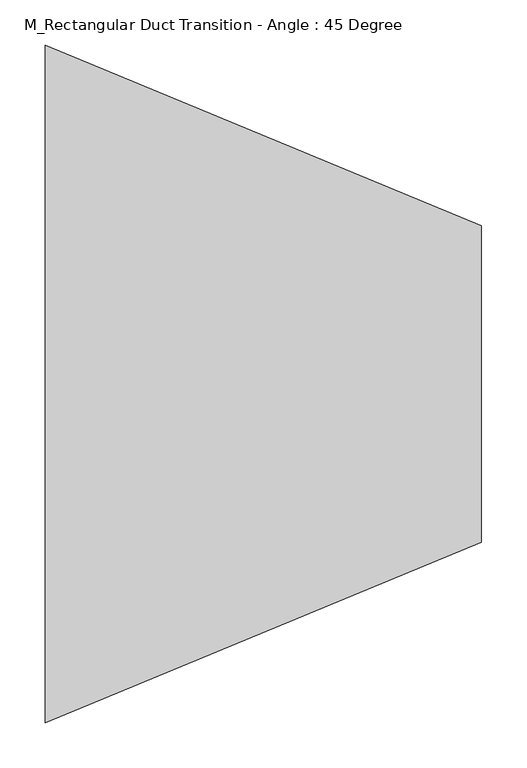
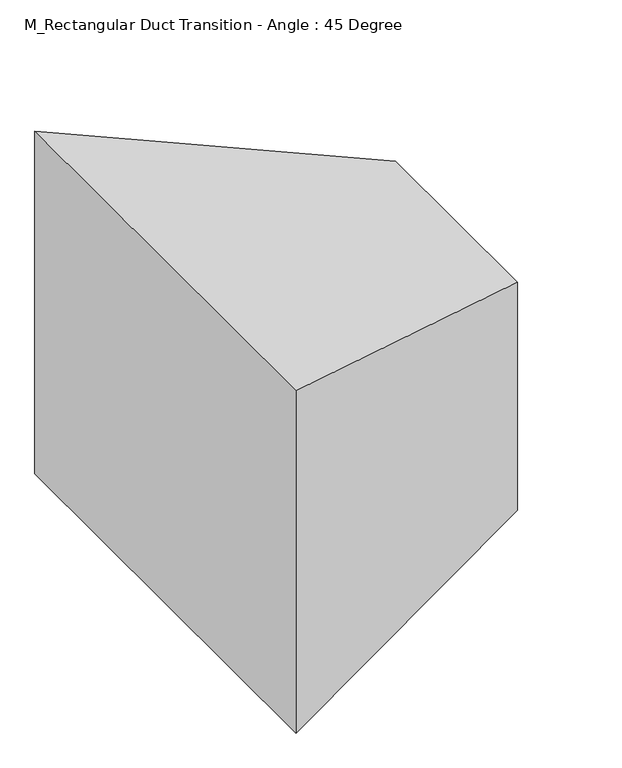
"""IFC4 building model written with IfcOpenShell, lengths in millimetres: duct fitting geometry, M_Rectangular Duct Transition - Angle : 45 Degree."""

import ifcopenshell
import ifcopenshell.guid

model = None  # the IFC model being written
_history = None  # IfcOwnerHistory: only IFC2X3 demands one
_inside = {}  # id of a spatial element -> (the spatial element, [elements in it])
_under = {}  # id of a project, library or spatial element -> (it, [spatial elements below it])
_declared = {}  # id of a project -> (the project, [libraries it declares])
_typed = {}  # id of a type object -> (the type object, [elements of that type])
_made_of = {}  # id of a material, layer set ... -> (it, [elements and type objects made of it])


def new_model(schema):
    """Start an empty IFC model of exactly this schema.

    Asked for "IFC4X3", IfcOpenShell would pick the latest addendum, in which some entities
    have other attributes; the version numbers below select the first issue.
    IFC2X3 requires an IfcOwnerHistory on every rooted entity: one is made here for all.
    """
    global model, _history
    if schema == "IFC4X3":
        model = ifcopenshell.file(schema_version=(4, 3, 0, 0))
    else:
        model = ifcopenshell.file(schema=schema)
    _inside.clear()
    _under.clear()
    _declared.clear()
    _typed.clear()
    _made_of.clear()
    _history = None
    if model.schema == "IFC2X3":
        org = make("IfcOrganization", Name="unknown")
        user = make(
            "IfcPersonAndOrganization",
            ThePerson=make("IfcPerson", FamilyName="unknown"),
            TheOrganization=org,
        )
        app = make(
            "IfcApplication",
            ApplicationDeveloper=org,
            Version="unknown",
            ApplicationFullName="unknown",
            ApplicationIdentifier="unknown",
        )
        _history = make(
            "IfcOwnerHistory",
            OwningUser=user,
            OwningApplication=app,
            ChangeAction="ADDED",
            CreationDate=0,
        )
    return model


def make(cls, **values):
    """One entity of the class cls with the attributes given. An attribute that is None is left unset."""
    return model.create_entity(
        cls, **{name: value for name, value in values.items() if value is not None}
    )


def rooted(cls, **values):
    """An entity with a GlobalId (a new one), such as an element, a storey or a relation."""
    return make(cls, GlobalId=ifcopenshell.guid.new(), OwnerHistory=_history, **values)


def si_unit(unit_type, name, prefix=None):
    """IfcSIUnit, for example si_unit("LENGTHUNIT", "METRE", prefix="MILLI")."""
    return make("IfcSIUnit", UnitType=unit_type, Prefix=prefix, Name=name)


def assignment(units):
    """IfcUnitAssignment: the units of a project."""
    return None if units is None else make("IfcUnitAssignment", Units=units)


def point(xyz):
    """IfcCartesianPoint."""
    return None if xyz is None else make("IfcCartesianPoint", Coordinates=xyz)


def direction(xyz):
    """IfcDirection."""
    return None if xyz is None else make("IfcDirection", DirectionRatios=xyz)


def frame(location, z_axis=None, x_axis=None):
    """IfcAxis2Placement3D, a coordinate frame: its origin and axes. An axis left out is left unset."""
    return make(
        "IfcAxis2Placement3D",
        Location=point(location),
        Axis=direction(z_axis),
        RefDirection=direction(x_axis),
    )


def origin():
    """The frame at (0, 0, 0) with its axes left unset."""
    return frame((0.0, 0.0, 0.0))


def place(relative_to, where):
    """IfcLocalPlacement: puts the frame where relative to a parent placement (None: the world)."""
    return make(
        "IfcLocalPlacement", PlacementRelTo=relative_to, RelativePlacement=where
    )


def context(
    kind, dimensions, precision=None, world=None, true_north=None, identifier=None
):
    """IfcGeometricRepresentationContext, for example the 3D "Model" context."""
    return make(
        "IfcGeometricRepresentationContext",
        ContextIdentifier=identifier,
        ContextType=kind,
        CoordinateSpaceDimension=dimensions,
        Precision=precision,
        WorldCoordinateSystem=world,
        TrueNorth=true_north,
    )


def project(units=None, contexts=None):
    """IfcProject with its units and contexts."""
    return rooted(
        "IfcProject",
        Name="project",
        RepresentationContexts=contexts,
        UnitsInContext=assignment(units),
    )


def spatial(cls, under=None, at=None, **own):
    """A site, building, storey or space (cls), placed at a placement, below another one or the project."""
    s = rooted(cls, ObjectPlacement=at, **own)
    if under is not None:
        _under.setdefault(under.id(), (under, []))[1].append(s)
    return s


def faces_of(points, faces, orient=None, outer=None):
    """IfcFace entities. A face is a list of loops; a loop is a list of indices into points, from 0.

    orient and outer hold one flag for each loop. By default every Orientation is true, the
    first loop of a face is its IfcFaceOuterBound and the others are IfcFaceBound.
    """
    made = []
    for i, loops in enumerate(faces):
        bounds = []
        for j, loop in enumerate(loops):
            is_outer = j == 0 if outer is None else outer[i][j]
            bounds.append(
                make(
                    "IfcFaceOuterBound" if is_outer else "IfcFaceBound",
                    Bound=make("IfcPolyLoop", Polygon=[points[k] for k in loop]),
                    Orientation=True if orient is None else orient[i][j],
                )
            )
        made.append(make("IfcFace", Bounds=bounds))
    return made


def faceted_brep(points, faces, orient=None, outer=None, voids=None):
    """IfcFacetedBrep: a solid bounded by flat faces; with voids (closed shells), ...WithVoids."""
    shared = [point(p) for p in points]
    hull = make("IfcClosedShell", CfsFaces=faces_of(shared, faces, orient, outer))
    if voids is None:
        return make("IfcFacetedBrep", Outer=hull)
    return make(
        "IfcFacetedBrepWithVoids",
        Outer=hull,
        Voids=[
            make(cls, CfsFaces=faces_of(shared, fs, o, b)) for cls, fs, o, b in voids
        ],
    )


def shape(context_of_items, identifier, shape_type, items):
    """IfcShapeRepresentation: the items that make up one representation, for example the "Body"."""
    return make(
        "IfcShapeRepresentation",
        ContextOfItems=context_of_items,
        RepresentationIdentifier=identifier,
        RepresentationType=shape_type,
        Items=items,
    )


def source(mapping_origin, context_of_items, identifier, shape_type, items):
    """IfcRepresentationMap: a shape defined once, which mapped items show again and again."""
    return make(
        "IfcRepresentationMap",
        MappingOrigin=mapping_origin,
        MappedRepresentation=shape(context_of_items, identifier, shape_type, items),
    )


def transform(
    local_origin,
    x_axis=None,
    y_axis=None,
    z_axis=None,
    scale=None,
    scale2=None,
    scale3=None,
    uniform=True,
):
    """IfcCartesianTransformationOperator3D, or its non-uniform kind. x_axis, y_axis, z_axis: its Axis1, 2, 3."""
    if uniform:
        return make(
            "IfcCartesianTransformationOperator3D",
            Axis1=direction(x_axis),
            Axis2=direction(y_axis),
            LocalOrigin=point(local_origin),
            Scale=scale,
            Axis3=direction(z_axis),
        )
    return make(
        "IfcCartesianTransformationOperator3DnonUniform",
        Axis1=direction(x_axis),
        Axis2=direction(y_axis),
        LocalOrigin=point(local_origin),
        Scale=scale,
        Axis3=direction(z_axis),
        Scale2=scale2,
        Scale3=scale3,
    )


def mapped(mapping_source, mapping_target):
    """IfcMappedItem: shows the shape of a source again, moved by a transform."""
    return make(
        "IfcMappedItem", MappingSource=mapping_source, MappingTarget=mapping_target
    )


def made_of(thing, what):
    """Note that an element or type object is made of a material, layer set ...; save() writes the relation."""
    if what is not None:
        _made_of.setdefault(what.id(), (what, []))[1].append(thing)
    return thing


def element(
    cls,
    number,
    at=None,
    inside=None,
    cuts=None,
    type_object=None,
    material=None,
    context=None,
    identifier="Body",
    shape_type=None,
    held_by="IfcProductDefinitionShape",
    body=None,
    shapes=None,
    **own,
):
    """One element of the class cls, such as IfcWall. Its Tag is "e" and its number.

    at: its placement. inside: the storey or other place that contains it. cuts: it is an
    opening in that element (IfcRelVoidsElement). A single representation is given by context,
    identifier, shape_type and body (its items); several are given by shapes. held_by: the class
    of the entity that holds the representations. save() writes the other relations.
    """
    e = rooted(cls, Tag="e%d" % number, ObjectPlacement=at, **own)
    if body is not None:
        shapes = [shape(context, identifier, shape_type, body)]
    if shapes is not None:
        e.Representation = make(held_by, Representations=shapes)
    if inside is not None:
        _inside.setdefault(inside.id(), (inside, []))[1].append(e)
    if cuts is not None:
        rooted(
            "IfcRelVoidsElement", RelatingBuildingElement=cuts, RelatedOpeningElement=e
        )
    if type_object is not None:
        _typed.setdefault(type_object.id(), (type_object, []))[1].append(e)
    return made_of(e, material)


def aggregate(whole, parts):
    """IfcRelAggregates: a whole, such as a stair, and the parts it consists of."""
    return rooted("IfcRelAggregates", RelatingObject=whole, RelatedObjects=parts)


def save(model, path):
    """Write the relations noted so far, then the file.

    IfcRelAggregates (storeys below a building ...), IfcRelContainedInSpatialStructure (elements
    in a storey), IfcRelDefinesByType, IfcRelAssociatesMaterial and IfcRelDeclares: one each for
    every whole, place, type object, material and project.
    """
    for whole, parts in _under.values():
        aggregate(whole, parts)
    for where, things in _inside.values():
        rooted(
            "IfcRelContainedInSpatialStructure",
            RelatedElements=things,
            RelatingStructure=where,
        )
    for kind, things in _typed.values():
        rooted("IfcRelDefinesByType", RelatedObjects=things, RelatingType=kind)
    for what, things in _made_of.values():
        rooted("IfcRelAssociatesMaterial", RelatedObjects=things, RelatingMaterial=what)
    for by, libraries in _declared.values():
        rooted("IfcRelDeclares", RelatingContext=by, RelatedDefinitions=libraries)
    model.write(path)


def m_rectangular_duct_transition_angle_45_degree_38c62c02(model_context):
    return source(origin(), model_context, "Body", "Brep", [
        faceted_brep([(482.8427125, -175.0, 200.0), (482.8427125, -175.0, -200.0), (482.8427125, 175.0, -200.0), (482.8427125, 175.0, 200.0), (0.0, -375.0, 300.0), (0.0, 375.0, 300.0), (0.0, 375.0, -300.0), (0.0, -375.0, -300.0)], [[[0, 1, 2, 3]], [[4, 5, 6, 7]], [[4, 7, 1, 0]], [[7, 6, 2, 1]], [[6, 5, 3, 2]], [[5, 4, 0, 3]]]),
        faceted_brep([(482.8427125, -175.0, 200.0), (482.8427125, -175.0, -200.0), (482.8427125, 175.0, -200.0), (482.8427125, 175.0, 200.0), (0.0, -375.0, 300.0), (0.0, 375.0, 300.0), (0.0, 375.0, -300.0), (0.0, -375.0, -300.0)], [[[0, 1, 2, 3]], [[4, 5, 6, 7]], [[4, 7, 1, 0]], [[7, 6, 2, 1]], [[6, 5, 3, 2]], [[5, 4, 0, 3]]]),
        faceted_brep([(482.8427125, -175.0, 200.0), (482.8427125, -175.0, -200.0), (482.8427125, 175.0, -200.0), (482.8427125, 175.0, 200.0), (0.0, -375.0, 300.0), (0.0, 375.0, 300.0), (0.0, 375.0, -300.0), (0.0, -375.0, -300.0)], [[[0, 1, 2, 3]], [[4, 5, 6, 7]], [[4, 7, 1, 0]], [[7, 6, 2, 1]], [[6, 5, 3, 2]], [[5, 4, 0, 3]]]),
    ])


if __name__ == "__main__":
    model = new_model("IFC4")
    model_context = context("Model", 3, world=origin())
    ifc_project = project(units=[si_unit("LENGTHUNIT", "METRE", prefix="MILLI")], contexts=[model_context])
    site = spatial("IfcSite", under=ifc_project)
    building = spatial("IfcBuilding", under=site)
    placement = place(None, origin())
    m_rectangular_duct_transition_angle_45_degree_shape = m_rectangular_duct_transition_angle_45_degree_38c62c02(model_context)
    element("IfcDuctFitting", 1, ObjectType="M_Rectangular Duct Transition - Angle : 45 Degree", at=placement, inside=building, context=model_context, shape_type="MappedRepresentation", body=[
        mapped(m_rectangular_duct_transition_angle_45_degree_shape, transform((0.0, 0.0, 0.0), x_axis=(1.0, 0.0, 0.0), y_axis=(0.0, 1.0, 0.0), z_axis=(0.0, 0.0, 1.0))),
    ])
    save(model, "model.ifc")
